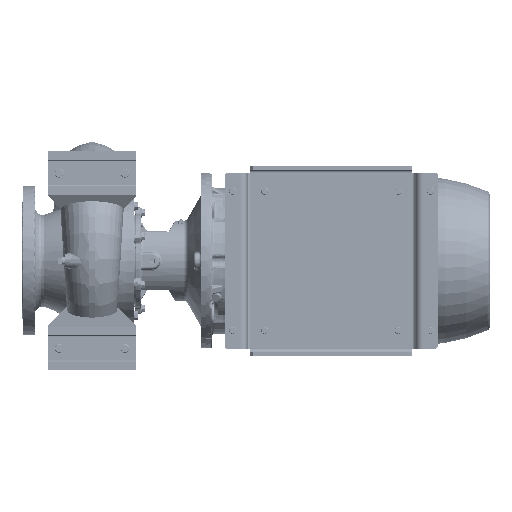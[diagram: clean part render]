
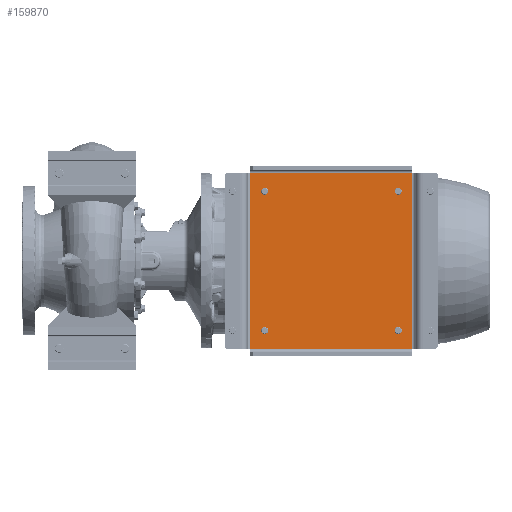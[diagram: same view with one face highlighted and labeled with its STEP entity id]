
A CAD part, front view. The second image highlights one B-rep face of the part: STEP entity #159870.
In plain terms, the highlighted planar face has unit normal (0, -1, 0).
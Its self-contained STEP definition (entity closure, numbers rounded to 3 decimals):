
#1772 = CARTESIAN_POINT ( 'NONE',  ( 396.5, 71., -376. ) ) ;
#3424 = FACE_BOUND ( 'NONE', #224576, .T. ) ;
#4381 = ORIENTED_EDGE ( 'NONE', *, *, #245022, .T. ) ;
#8168 = CIRCLE ( 'NONE', #96615, 8. ) ;
#11456 = LINE ( 'NONE', #215340, #47747 ) ;
#20671 = ORIENTED_EDGE ( 'NONE', *, *, #144874, .T. ) ;
#21866 = DIRECTION ( 'NONE',  ( 0., 1., 0. ) ) ;
#24014 = CARTESIAN_POINT ( 'NONE',  ( 429., 71., -16. ) ) ;
#26549 = CIRCLE ( 'NONE', #213497, 8. ) ;
#26599 = CARTESIAN_POINT ( 'NONE',  ( 396.5, 71., -368. ) ) ;
#28569 = VERTEX_POINT ( 'NONE', #162367 ) ;
#29524 = LINE ( 'NONE', #266717, #211574 ) ;
#29821 = CARTESIAN_POINT ( 'NONE',  ( 91.5, 71., -50. ) ) ;
#30418 = ORIENTED_EDGE ( 'NONE', *, *, #282927, .T. ) ;
#32769 = AXIS2_PLACEMENT_3D ( 'NONE', #174437, #225160, #105086 ) ;
#34134 = EDGE_CURVE ( 'NONE', #47243, #54206, #197690, .T. ) ;
#34696 = VERTEX_POINT ( 'NONE', #29821 ) ;
#35200 = EDGE_LOOP ( 'NONE', ( #30418, #118700 ) ) ;
#40397 = EDGE_LOOP ( 'NONE', ( #142345, #4381 ) ) ;
#41057 = CARTESIAN_POINT ( 'NONE',  ( 59., 71., -16. ) ) ;
#42647 = CARTESIAN_POINT ( 'NONE',  ( 91.5, 71., -376. ) ) ;
#44014 = DIRECTION ( 'NONE',  ( 0., 1., 0. ) ) ;
#44806 = VERTEX_POINT ( 'NONE', #26599 ) ;
#45030 = AXIS2_PLACEMENT_3D ( 'NONE', #42647, #276839, #158269 ) ;
#47243 = VERTEX_POINT ( 'NONE', #198019 ) ;
#47747 = VECTOR ( 'NONE', #105471, 1000. ) ;
#54206 = VERTEX_POINT ( 'NONE', #116796 ) ;
#54281 = DIRECTION ( 'NONE',  ( 0., -1., 0. ) ) ;
#59468 = ORIENTED_EDGE ( 'NONE', *, *, #128587, .T. ) ;
#63898 = CARTESIAN_POINT ( 'NONE',  ( 91.5, 71., -376. ) ) ;
#67502 = CIRCLE ( 'NONE', #288744, 8. ) ;
#71811 = EDGE_CURVE ( 'NONE', #44806, #185259, #220039, .T. ) ;
#72859 = FACE_BOUND ( 'NONE', #159460, .T. ) ;
#73015 = VECTOR ( 'NONE', #211009, 1000. ) ;
#75826 = DIRECTION ( 'NONE',  ( 0., 0., 1. ) ) ;
#77420 = FACE_BOUND ( 'NONE', #35200, .T. ) ;
#88536 = DIRECTION ( 'NONE',  ( 0., 1., 0. ) ) ;
#95935 = DIRECTION ( 'NONE',  ( 0., 0., -1. ) ) ;
#96370 = ORIENTED_EDGE ( 'NONE', *, *, #34134, .T. ) ;
#96615 = AXIS2_PLACEMENT_3D ( 'NONE', #63898, #88536, #279480 ) ;
#105086 = DIRECTION ( 'NONE',  ( 0., 0., -1. ) ) ;
#105471 = DIRECTION ( 'NONE',  ( 0., 0., -1. ) ) ;
#108214 = DIRECTION ( 'NONE',  ( 0., 1., 0. ) ) ;
#108601 = CARTESIAN_POINT ( 'NONE',  ( 396.5, 71., -66. ) ) ;
#113399 = DIRECTION ( 'NONE',  ( 0., 0., -1. ) ) ;
#114388 = DIRECTION ( 'NONE',  ( 0., 0., -1. ) ) ;
#115281 = LINE ( 'NONE', #116795, #212102 ) ;
#116795 = CARTESIAN_POINT ( 'NONE',  ( 59., 71., -16. ) ) ;
#116796 = CARTESIAN_POINT ( 'NONE',  ( 91.5, 71., -384. ) ) ;
#116983 = ORIENTED_EDGE ( 'NONE', *, *, #250161, .T. ) ;
#118700 = ORIENTED_EDGE ( 'NONE', *, *, #213249, .T. ) ;
#119294 = EDGE_CURVE ( 'NONE', #215562, #28569, #11456, .T. ) ;
#122103 = PLANE ( 'NONE',  #185628 ) ;
#125462 = CIRCLE ( 'NONE', #287741, 8. ) ;
#128587 = EDGE_CURVE ( 'NONE', #54206, #47243, #8168, .T. ) ;
#131323 = CARTESIAN_POINT ( 'NONE',  ( 396.5, 71., -384. ) ) ;
#136866 = DIRECTION ( 'NONE',  ( 0., 1., 0. ) ) ;
#139383 = ORIENTED_EDGE ( 'NONE', *, *, #119294, .T. ) ;
#141013 = CIRCLE ( 'NONE', #32769, 8. ) ;
#142345 = ORIENTED_EDGE ( 'NONE', *, *, #175767, .T. ) ;
#142953 = DIRECTION ( 'NONE',  ( -1., 0., 0. ) ) ;
#143722 = FACE_OUTER_BOUND ( 'NONE', #172150, .T. ) ;
#144874 = EDGE_CURVE ( 'NONE', #28569, #176659, #263274, .T. ) ;
#150594 = ORIENTED_EDGE ( 'NONE', *, *, #71811, .T. ) ;
#155337 = CIRCLE ( 'NONE', #243940, 8. ) ;
#157475 = DIRECTION ( 'NONE',  ( 0., 0., -1. ) ) ;
#158269 = DIRECTION ( 'NONE',  ( 0., 0., -1. ) ) ;
#159460 = EDGE_LOOP ( 'NONE', ( #96370, #59468 ) ) ;
#159870 = ADVANCED_FACE ( 'NONE', ( #143722, #282367, #3424, #72859, #77420 ), #122103, .T. ) ;
#162367 = CARTESIAN_POINT ( 'NONE',  ( 59., 71., -418. ) ) ;
#172150 = EDGE_LOOP ( 'NONE', ( #229540, #139383, #20671, #293734 ) ) ;
#174437 = CARTESIAN_POINT ( 'NONE',  ( 396.5, 71., -376. ) ) ;
#175767 = EDGE_CURVE ( 'NONE', #34696, #198689, #155337, .T. ) ;
#176659 = VERTEX_POINT ( 'NONE', #200193 ) ;
#177961 = DIRECTION ( 'NONE',  ( 0., 1., 0. ) ) ;
#184250 = CARTESIAN_POINT ( 'NONE',  ( 396.5, 71., -58. ) ) ;
#184879 = VERTEX_POINT ( 'NONE', #108601 ) ;
#185259 = VERTEX_POINT ( 'NONE', #131323 ) ;
#185628 = AXIS2_PLACEMENT_3D ( 'NONE', #265297, #54281, #95935 ) ;
#197690 = CIRCLE ( 'NONE', #45030, 8. ) ;
#198019 = CARTESIAN_POINT ( 'NONE',  ( 91.5, 71., -368. ) ) ;
#198689 = VERTEX_POINT ( 'NONE', #230503 ) ;
#198904 = VERTEX_POINT ( 'NONE', #24014 ) ;
#199067 = VERTEX_POINT ( 'NONE', #219576 ) ;
#200193 = CARTESIAN_POINT ( 'NONE',  ( 429., 71., -418. ) ) ;
#211009 = DIRECTION ( 'NONE',  ( 1., 0., 0. ) ) ;
#211574 = VECTOR ( 'NONE', #75826, 1000. ) ;
#212102 = VECTOR ( 'NONE', #142953, 1000. ) ;
#213249 = EDGE_CURVE ( 'NONE', #184879, #199067, #67502, .T. ) ;
#213497 = AXIS2_PLACEMENT_3D ( 'NONE', #184250, #44014, #113399 ) ;
#215340 = CARTESIAN_POINT ( 'NONE',  ( 59., 71., -418. ) ) ;
#215562 = VERTEX_POINT ( 'NONE', #41057 ) ;
#219576 = CARTESIAN_POINT ( 'NONE',  ( 396.5, 71., -50. ) ) ;
#220039 = CIRCLE ( 'NONE', #259379, 8. ) ;
#224576 = EDGE_LOOP ( 'NONE', ( #150594, #116983 ) ) ;
#225160 = DIRECTION ( 'NONE',  ( 0., 1., 0. ) ) ;
#225653 = CARTESIAN_POINT ( 'NONE',  ( 396.5, 71., -58. ) ) ;
#229261 = DIRECTION ( 'NONE',  ( 0., 0., -1. ) ) ;
#229540 = ORIENTED_EDGE ( 'NONE', *, *, #295771, .T. ) ;
#230503 = CARTESIAN_POINT ( 'NONE',  ( 91.5, 71., -66. ) ) ;
#237138 = CARTESIAN_POINT ( 'NONE',  ( 429., 71., -418. ) ) ;
#243940 = AXIS2_PLACEMENT_3D ( 'NONE', #304755, #136866, #229261 ) ;
#245022 = EDGE_CURVE ( 'NONE', #198689, #34696, #125462, .T. ) ;
#246881 = CARTESIAN_POINT ( 'NONE',  ( 91.5, 71., -58. ) ) ;
#250161 = EDGE_CURVE ( 'NONE', #185259, #44806, #141013, .T. ) ;
#259379 = AXIS2_PLACEMENT_3D ( 'NONE', #1772, #21866, #114388 ) ;
#263274 = LINE ( 'NONE', #237138, #73015 ) ;
#265297 = CARTESIAN_POINT ( 'NONE',  ( 0., 71., 0. ) ) ;
#266717 = CARTESIAN_POINT ( 'NONE',  ( 429., 71., -16. ) ) ;
#271883 = DIRECTION ( 'NONE',  ( 0., 0., -1. ) ) ;
#276262 = EDGE_CURVE ( 'NONE', #176659, #198904, #29524, .T. ) ;
#276839 = DIRECTION ( 'NONE',  ( 0., 1., 0. ) ) ;
#279480 = DIRECTION ( 'NONE',  ( 0., 0., -1. ) ) ;
#282367 = FACE_BOUND ( 'NONE', #40397, .T. ) ;
#282927 = EDGE_CURVE ( 'NONE', #199067, #184879, #26549, .T. ) ;
#287741 = AXIS2_PLACEMENT_3D ( 'NONE', #246881, #108214, #157475 ) ;
#288744 = AXIS2_PLACEMENT_3D ( 'NONE', #225653, #177961, #271883 ) ;
#293734 = ORIENTED_EDGE ( 'NONE', *, *, #276262, .T. ) ;
#295771 = EDGE_CURVE ( 'NONE', #198904, #215562, #115281, .T. ) ;
#304755 = CARTESIAN_POINT ( 'NONE',  ( 91.5, 71., -58. ) ) ;
